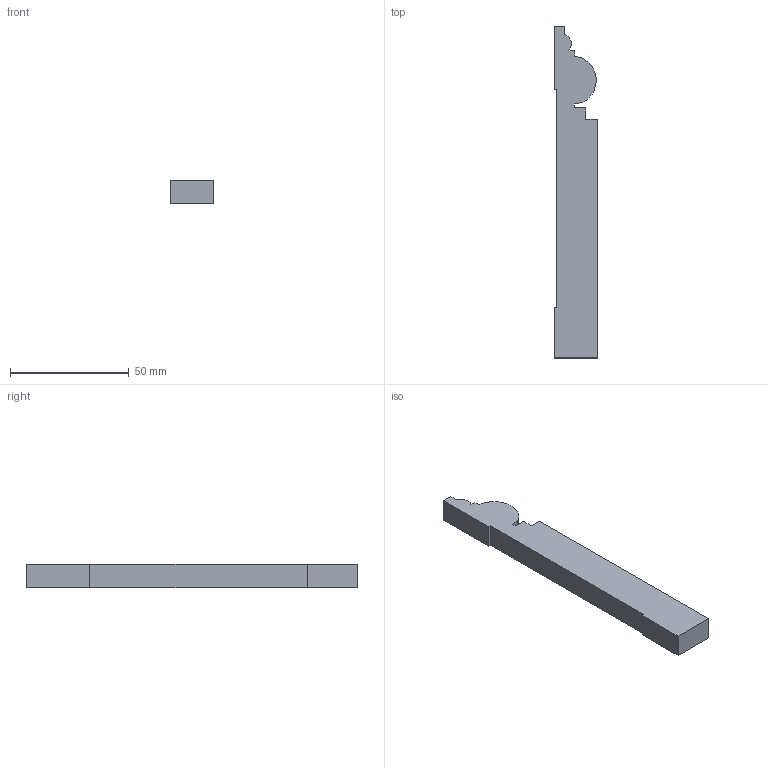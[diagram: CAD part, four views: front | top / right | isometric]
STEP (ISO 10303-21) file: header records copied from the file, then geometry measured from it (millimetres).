
FILE_DESCRIPTION (( 'STEP AP203' ), '1' );
FILE_NAME ('Ab212-1FJ.STEP', '2024-02-17T10:02:07', ( '' ), ( '' ), 'SwSTEP 2.0', 'SolidWorks 2020', '' );
FILE_SCHEMA (( 'CONFIG_CONTROL_DESIGN' ));
Length unit declared in the file: millimetre
Products named in the file (1): Ab212-1FJ
Bounding box: 18.22 x 139.78 x 10 mm (x, y, z)
Volume: 21987.4 mm3; surface area: 7673.4 mm2
Topology: 1 solids, 1 shells, 49 faces, 141 edges, 94 vertices
Faces by surface type: plane 49
Entity records: 1652 total; most frequent: CARTESIAN_POINT 285, ORIENTED_EDGE 282, DIRECTION 241, LINE 141, EDGE_CURVE 141, VECTOR 141, VERTEX_POINT 94, AXIS2_PLACEMENT_3D 50
